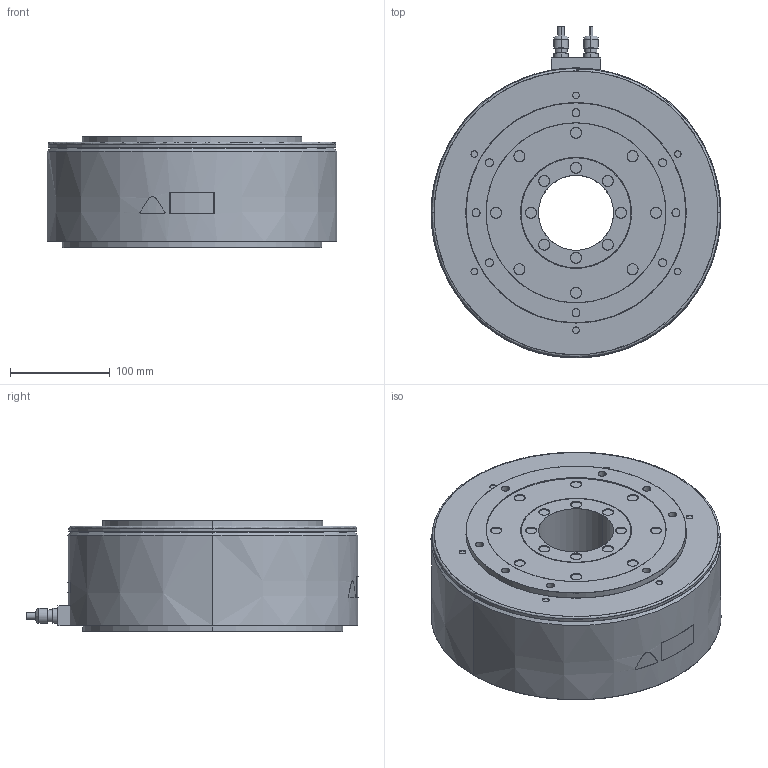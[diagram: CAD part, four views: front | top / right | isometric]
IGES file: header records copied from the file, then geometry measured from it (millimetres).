
Start section: SolidWorks IGES file using analytic representation for surfaces
Bounding box: 290 x 332.1 x 112 mm (x, y, z)
Surface area: 263719.4 mm2 (no closed solid volume)
Topology: 0 solids, 0 shells, 234 faces, 5544 edges, 5544 vertices
Faces by surface type: revolution 142, bspline 92
